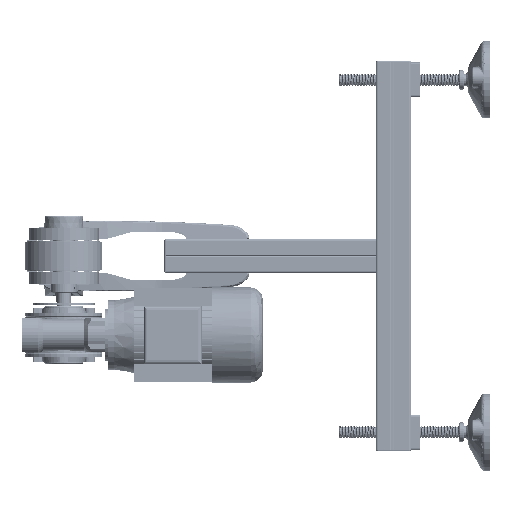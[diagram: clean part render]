
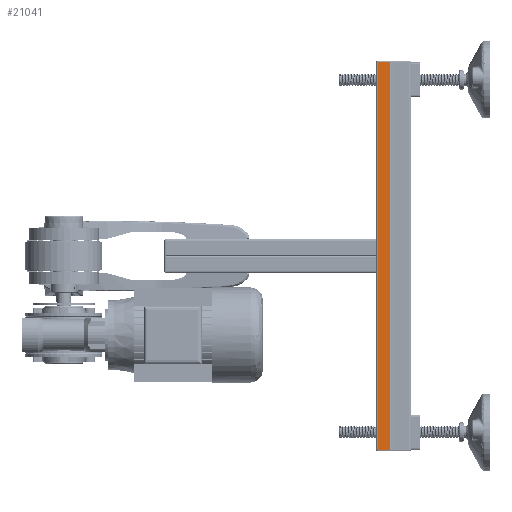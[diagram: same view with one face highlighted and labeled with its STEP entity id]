
A CAD part, left-side view. The second image highlights one B-rep face of the part: STEP entity #21041.
In plain terms, the highlighted planar face has unit normal (-1, 0, 0) as drawn and (0, 0, -1) by its records, which use the part's own axes.
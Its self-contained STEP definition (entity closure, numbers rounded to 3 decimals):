
#1745 = VERTEX_POINT ( 'NONE', #39651 ) ;
#9713 = DIRECTION ( 'NONE',  ( 0., 1., 0. ) ) ;
#16154 = FACE_OUTER_BOUND ( 'NONE', #146631, .T. ) ;
#16840 = VERTEX_POINT ( 'NONE', #154897 ) ;
#19786 = AXIS2_PLACEMENT_3D ( 'NONE', #78081, #131377, #118433 ) ;
#21041 = ADVANCED_FACE ( 'NONE', ( #16154 ), #157090, .F. ) ;
#21409 = LINE ( 'NONE', #23124, #169717 ) ;
#23124 = CARTESIAN_POINT ( 'NONE',  ( 250., -115.5, -45. ) ) ;
#23133 = DIRECTION ( 'NONE',  ( 0., 1., 0. ) ) ;
#31494 = ORIENTED_EDGE ( 'NONE', *, *, #161403, .F. ) ;
#39410 = EDGE_CURVE ( 'NONE', #92452, #16840, #21409, .T. ) ;
#39651 = CARTESIAN_POINT ( 'NONE',  ( 250., -131.35, -45. ) ) ;
#46554 = CARTESIAN_POINT ( 'NONE',  ( -250., -131.35, -45. ) ) ;
#60385 = EDGE_CURVE ( 'NONE', #126315, #16840, #137820, .T. ) ;
#61742 = DIRECTION ( 'NONE',  ( -1., 0., 0. ) ) ;
#65612 = VECTOR ( 'NONE', #103373, 1000. ) ;
#78081 = CARTESIAN_POINT ( 'NONE',  ( 250., -131.35, -45. ) ) ;
#90944 = CARTESIAN_POINT ( 'NONE',  ( 250., -131.35, -45. ) ) ;
#92452 = VERTEX_POINT ( 'NONE', #118406 ) ;
#102275 = ORIENTED_EDGE ( 'NONE', *, *, #39410, .F. ) ;
#103373 = DIRECTION ( 'NONE',  ( -1., 0., 0. ) ) ;
#111268 = VECTOR ( 'NONE', #23133, 1000. ) ;
#113105 = EDGE_CURVE ( 'NONE', #1745, #126315, #142107, .T. ) ;
#118406 = CARTESIAN_POINT ( 'NONE',  ( 250., -115.5, -45. ) ) ;
#118433 = DIRECTION ( 'NONE',  ( 0., -1., 0. ) ) ;
#119622 = ORIENTED_EDGE ( 'NONE', *, *, #60385, .T. ) ;
#125783 = CARTESIAN_POINT ( 'NONE',  ( -250., -131.35, -45. ) ) ;
#126315 = VERTEX_POINT ( 'NONE', #46554 ) ;
#130502 = LINE ( 'NONE', #90944, #111268 ) ;
#131377 = DIRECTION ( 'NONE',  ( 0., 0., 1. ) ) ;
#137820 = LINE ( 'NONE', #125783, #151592 ) ;
#141275 = CARTESIAN_POINT ( 'NONE',  ( 250., -131.35, -45. ) ) ;
#142107 = LINE ( 'NONE', #141275, #65612 ) ;
#146631 = EDGE_LOOP ( 'NONE', ( #119622, #102275, #31494, #164649 ) ) ;
#151592 = VECTOR ( 'NONE', #9713, 1000. ) ;
#154897 = CARTESIAN_POINT ( 'NONE',  ( -250., -115.5, -45. ) ) ;
#157090 = PLANE ( 'NONE',  #19786 ) ;
#161403 = EDGE_CURVE ( 'NONE', #1745, #92452, #130502, .T. ) ;
#164649 = ORIENTED_EDGE ( 'NONE', *, *, #113105, .T. ) ;
#169717 = VECTOR ( 'NONE', #61742, 1000. ) ;
